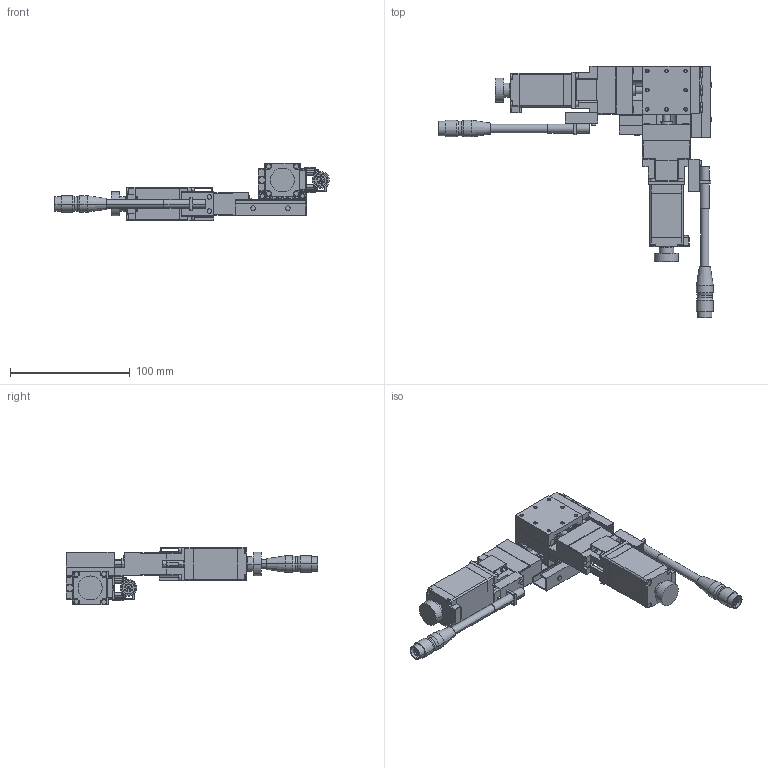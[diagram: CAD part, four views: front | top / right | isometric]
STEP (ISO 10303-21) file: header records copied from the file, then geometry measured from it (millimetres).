
FILE_DESCRIPTION(('STEP AP203'),'1');
FILE_NAME('C:/3D-Trans/3D_PMG413T-L□-D4+240122.step','2024-03-14T04:19:36',(' '),(' '),'Spatial InterOp 3D',' ',' ');
FILE_SCHEMA(('CONFIG_CONTROL_DESIGN'));
Length unit declared in the file: millimetre
Products named in the file (12): 1; 2; 3; 4; 5; 6; 7; 8; 9; 10; 11; 12
Bounding box: 229 x 210 x 48 mm (x, y, z)
Volume: 213701.2 mm3; surface area: 98012.4 mm2
Topology: 12 solids, 12 shells, 1446 faces, 3616 edges, 2304 vertices
Faces by surface type: plane 852, cylinder 484, cone 108, extrusion 2
Entity records: 43930 total; most frequent: CARTESIAN_POINT 7982, DIRECTION 7588, ORIENTED_EDGE 7152, EDGE_CURVE 3576, AXIS2_PLACEMENT_3D 2582, VECTOR 2424, LINE 2422, VERTEX_POINT 2304
